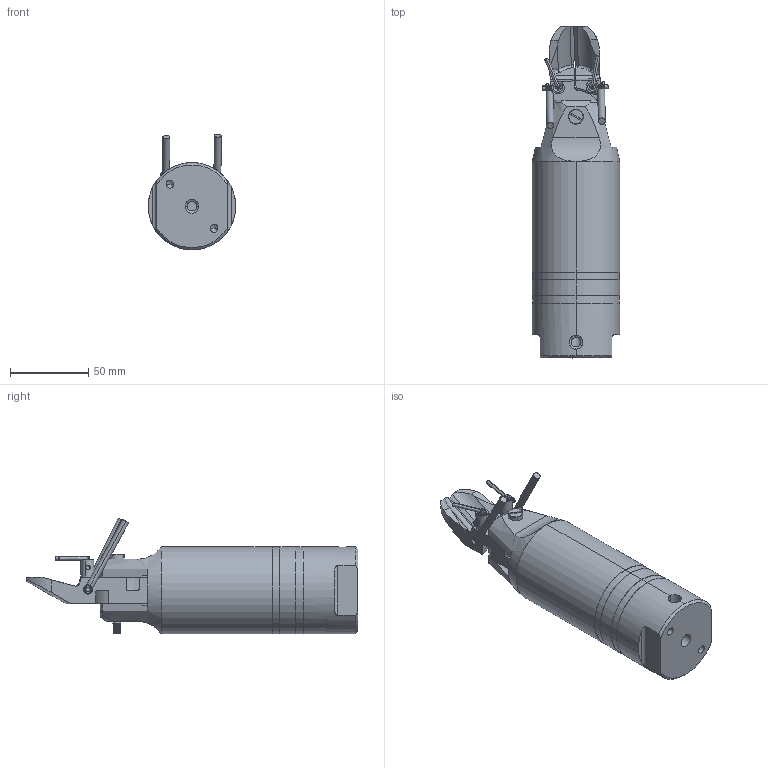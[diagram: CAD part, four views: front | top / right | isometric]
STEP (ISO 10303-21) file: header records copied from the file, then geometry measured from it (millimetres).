
FILE_DESCRIPTION (( 'STEP AP203' ), '1' );
FILE_NAME ('GT-NR30-N30PF_H.STEP', '2024-05-13T05:59:31', ( '微软用户' ), ( '微软中国' ), 'SwSTEP 2.0', 'SolidWorks 2018', '' );
FILE_SCHEMA (( 'CONFIG_CONTROL_DESIGN' ));
Length unit declared in the file: millimetre
Products named in the file (4): GT-NR30-N30PF_H.sldasm-Part-3; GT-NR30-N30PF_H; GT-NR30-N30PF_H.sldasm-Part-1; GT-NR30-N30PF_H.sldasm-Part-2
Assembly tree (3 placements, depth 2):
  GT-NR30-N30PF_H
    GT-NR30-N30PF_H.sldasm-Part-1
    GT-NR30-N30PF_H.sldasm-Part-2
    GT-NR30-N30PF_H.sldasm-Part-3
Bounding box: 56 x 212.69 x 74.3 mm (x, y, z)
Volume: 237386 mm3; surface area: 66544.8 mm2
Topology: 3 solids, 5 shells, 524 faces, 1447 edges, 929 vertices
Faces by surface type: cylinder 225, plane 209, bspline 51, cone 31, torus 8
Full cylindrical faces by diameter (mm): 2 x1
Entity records: 32135 total; most frequent: CARTESIAN_POINT 19637, ORIENTED_EDGE 2872, DIRECTION 2160, EDGE_CURVE 1436, VERTEX_POINT 928, AXIS2_PLACEMENT_3D 774, LINE 612, VECTOR 612
